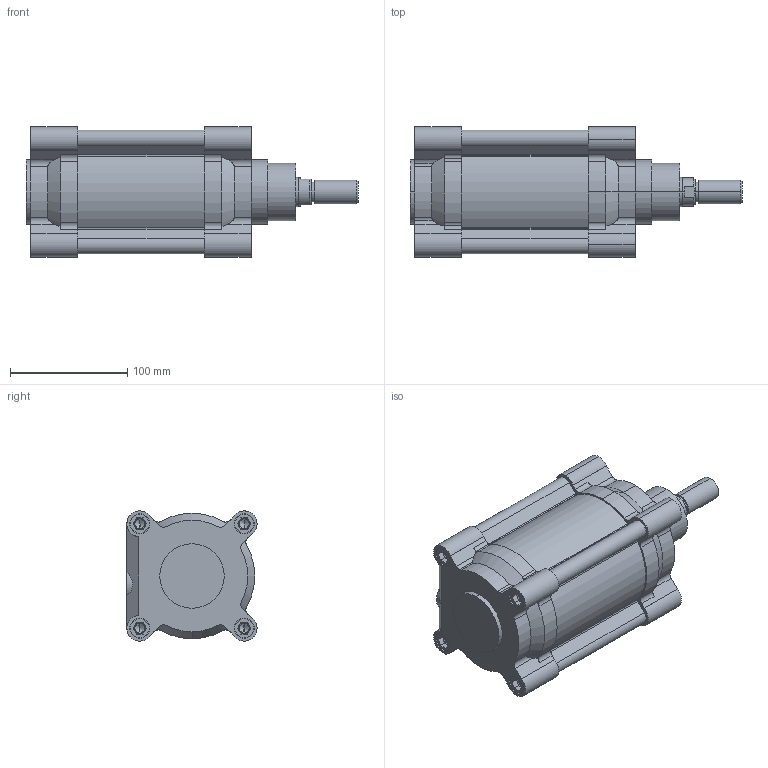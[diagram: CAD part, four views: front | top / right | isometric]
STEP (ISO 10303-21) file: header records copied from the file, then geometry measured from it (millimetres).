
FILE_DESCRIPTION (( 'STEP AP203' ), '1' );
FILE_NAME ('CPME100-50.STEP', '2024-10-01T10:32:05', ( '' ), ( '' ), 'SwSTEP 2.0', 'SolidWorks 2019', '' );
FILE_SCHEMA (( 'CONFIG_CONTROL_DESIGN' ));
Length unit declared in the file: millimetre
Products named in the file (1): CPME100-50
Bounding box: 283 x 111 x 111 mm (x, y, z)
Volume: 1601767.4 mm3; surface area: 259375.1 mm2
Topology: 4 solids, 4 shells, 438 faces, 1087 edges, 674 vertices
Faces by surface type: plane 195, cylinder 191, cone 52
Entity records: 13513 total; most frequent: CARTESIAN_POINT 2845, DIRECTION 2343, ORIENTED_EDGE 2134, EDGE_CURVE 1067, AXIS2_PLACEMENT_3D 875, VERTEX_POINT 674, VECTOR 593, LINE 593
